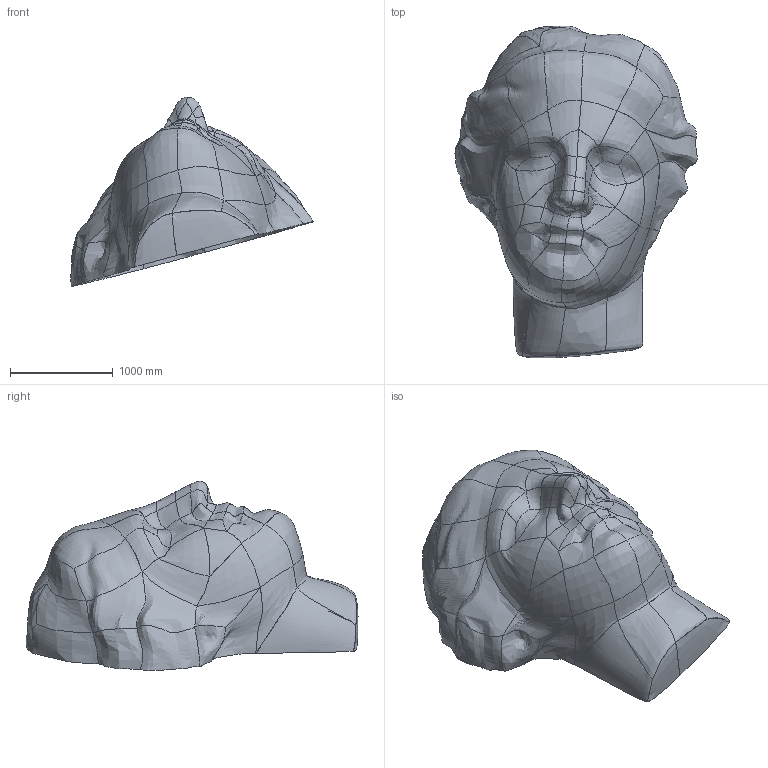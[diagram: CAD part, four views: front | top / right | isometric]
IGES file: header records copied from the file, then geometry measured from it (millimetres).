
Global section: file name: D:\RhinoResurf(v1.01)\multi_surface\vesus_; native system: Rhinoceros ( Oct 17 2007 ); preprocessor: Trout Lake IGES 012 Oct 17 2007; date: 080318.070212; units: centimetre
Bounding box: 2353.58 x 3224.5 x 1839.17 mm (x, y, z)
Surface area: 11671215.9 mm2 (no closed solid volume)
Topology: 0 solids, 0 shells, 93 faces, 372 edges, 372 vertices
Faces by surface type: bspline 93
